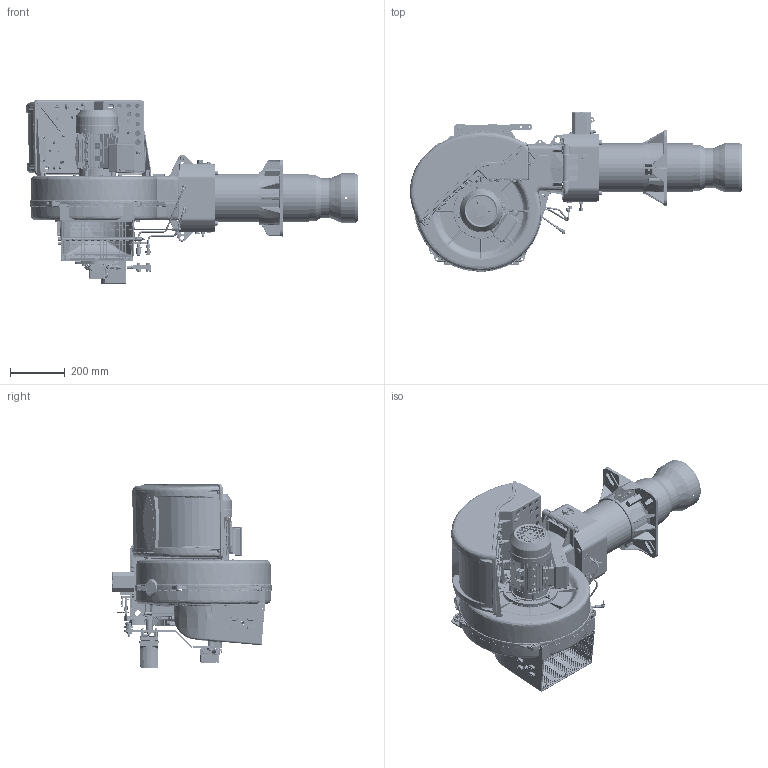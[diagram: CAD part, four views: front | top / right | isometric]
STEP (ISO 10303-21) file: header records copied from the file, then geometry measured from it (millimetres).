
FILE_DESCRIPTION (( 'STEP AP214' ), '1' );
FILE_NAME ('TBML 90P.STEP', '2021-10-19T08:22:16', ( '' ), ( '' ), 'SwSTEP 2.0', 'SolidWorks 2018', '' );
FILE_SCHEMA (( 'AUTOMOTIVE_DESIGN' ));
Length unit declared in the file: millimetre
Products named in the file (1): TBML 90P
Bounding box: 1209.37 x 580.54 x 673.31 mm (x, y, z)
Surface area: 3731789.9 mm2 (no closed solid volume)
Topology: 0 solids, 449 shells, 4923 faces, 22311 edges, 17053 vertices
Faces by surface type: plane 2459, cylinder 1168, bspline 935, cone 291, torus 48, sphere 22
Full cylindrical faces by diameter (mm): 1.2 x4, 3.3 x1, 3.5 x2, 3.7 x7, 4 x6, 4.2 x8, 4.5 x1, 4.8 x3, 5 x12, 5.1 x2, 5.2 x1, 5.4 x2, 5.5 x2, 5.857 x4, 6 x20, 6.2 x2, 6.5 x2, 7 x15, 7.9 x1, 8 x37, 8.2 x1, 8.3 x2, 8.5 x4, 8.728 x1, 8.8 x3, 9 x2, 9.5 x4, 9.64 x1, 9.728 x2, 9.73 x1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
Entity records: 453653 total; most frequent: CARTESIAN_POINT 244386, ORIENTED_EDGE 29905, DIRECTION 24722, EDGE_CURVE 21585, VERTEX_POINT 16880, VECTOR 10374, LINE 10374, B_SPLINE_CURVE_WITH_KNOTS 7591
